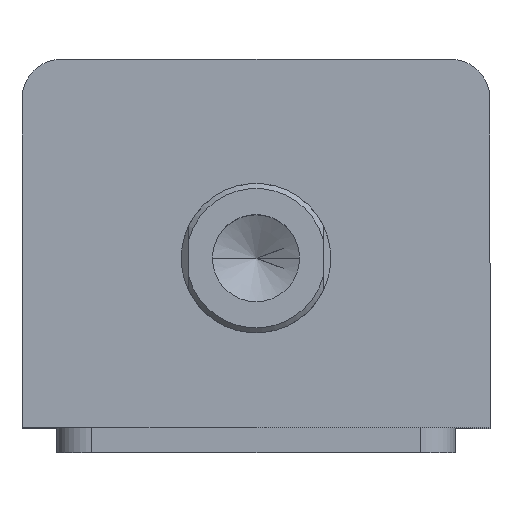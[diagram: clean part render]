
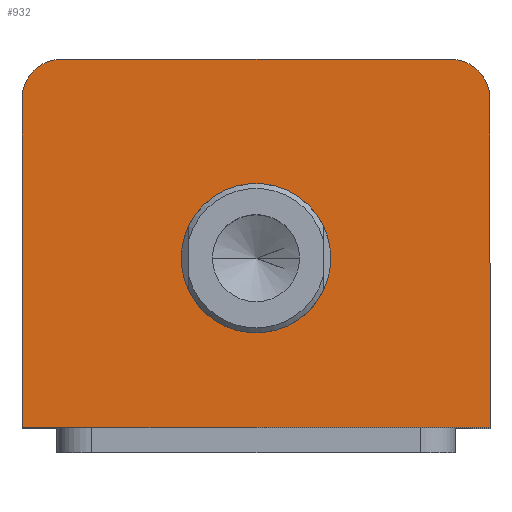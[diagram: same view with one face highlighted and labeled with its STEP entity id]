
A CAD part, top view. The second image highlights one B-rep face of the part: STEP entity #932.
In plain terms, the highlighted planar face has unit normal (0, 0, 1).
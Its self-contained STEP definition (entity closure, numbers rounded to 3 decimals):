
#15 = FACE_BOUND ( 'NONE', #2505, .T. ) ;
#18 = FACE_OUTER_BOUND ( 'NONE', #2577, .T. ) ;
#81 = CIRCLE ( 'NONE', #514, 15. ) ;
#120 = LINE ( 'NONE', #1410, #123 ) ;
#123 = VECTOR ( 'NONE', #1411, 1000. ) ;
#165 = LINE ( 'NONE', #1461, #168 ) ;
#168 = VECTOR ( 'NONE', #1462, 1000. ) ;
#181 = CIRCLE ( 'NONE', #534, 8. ) ;
#195 = CIRCLE ( 'NONE', #542, 8. ) ;
#203 = LINE ( 'NONE', #1539, #206 ) ;
#206 = VECTOR ( 'NONE', #1540, 1000. ) ;
#218 = LINE ( 'NONE', #1555, #221 ) ;
#221 = VECTOR ( 'NONE', #1556, 1000. ) ;
#235 = CIRCLE ( 'NONE', #547, 15. ) ;
#514 = AXIS2_PLACEMENT_3D ( 'NONE', #1087, #1086, #1084 ) ;
#534 = AXIS2_PLACEMENT_3D ( 'NONE', #1493, #1494, #1495 ) ;
#542 = AXIS2_PLACEMENT_3D ( 'NONE', #1521, #1522, #1523 ) ;
#547 = AXIS2_PLACEMENT_3D ( 'NONE', #1572, #1573, #1574 ) ;
#854 = AXIS2_PLACEMENT_3D ( 'NONE', #2009, #2014, #2015 ) ;
#932 = ADVANCED_FACE ( 'NONE', ( #15, #18 ), #2007, .T. ) ;
#981 = EDGE_CURVE ( 'NONE', #2445, #2140, #81, .T. ) ;
#1005 = EDGE_CURVE ( 'NONE', #2396, #2147, #120, .T. ) ;
#1029 = EDGE_CURVE ( 'NONE', #1209, #1095, #165, .T. ) ;
#1042 = EDGE_CURVE ( 'NONE', #2147, #1209, #181, .T. ) ;
#1052 = EDGE_CURVE ( 'NONE', #1095, #2464, #195, .T. ) ;
#1058 = EDGE_CURVE ( 'NONE', #2444, #2396, #203, .T. ) ;
#1066 = EDGE_CURVE ( 'NONE', #2464, #2444, #218, .T. ) ;
#1075 = EDGE_CURVE ( 'NONE', #2140, #2445, #235, .T. ) ;
#1084 = DIRECTION ( 'NONE',  ( 1., 0., 0. ) ) ;
#1086 = DIRECTION ( 'NONE',  ( 0., 0., 1. ) ) ;
#1087 = CARTESIAN_POINT ( 'NONE',  ( 0., -3., 125. ) ) ;
#1095 = VERTEX_POINT ( 'NONE', #1595 ) ;
#1209 = VERTEX_POINT ( 'NONE', #1605 ) ;
#1300 = ORIENTED_EDGE ( 'NONE', *, *, #1042, .T. ) ;
#1301 = ORIENTED_EDGE ( 'NONE', *, *, #1005, .T. ) ;
#1302 = ORIENTED_EDGE ( 'NONE', *, *, #1058, .T. ) ;
#1303 = ORIENTED_EDGE ( 'NONE', *, *, #1066, .T. ) ;
#1304 = ORIENTED_EDGE ( 'NONE', *, *, #1052, .T. ) ;
#1305 = ORIENTED_EDGE ( 'NONE', *, *, #1029, .T. ) ;
#1307 = ORIENTED_EDGE ( 'NONE', *, *, #981, .F. ) ;
#1308 = ORIENTED_EDGE ( 'NONE', *, *, #1075, .F. ) ;
#1410 = CARTESIAN_POINT ( 'NONE',  ( 47., 37., 125. ) ) ;
#1411 = DIRECTION ( 'NONE',  ( 0., 1., 0. ) ) ;
#1461 = CARTESIAN_POINT ( 'NONE',  ( -47., 37., 125. ) ) ;
#1462 = DIRECTION ( 'NONE',  ( -1., 0., 0. ) ) ;
#1493 = CARTESIAN_POINT ( 'NONE',  ( 39., 29., 125. ) ) ;
#1494 = DIRECTION ( 'NONE',  ( 0., 0., 1. ) ) ;
#1495 = DIRECTION ( 'NONE',  ( 1., 0., 0. ) ) ;
#1521 = CARTESIAN_POINT ( 'NONE',  ( -39., 29., 125. ) ) ;
#1522 = DIRECTION ( 'NONE',  ( 0., 0., 1. ) ) ;
#1523 = DIRECTION ( 'NONE',  ( 1., 0., 0. ) ) ;
#1539 = CARTESIAN_POINT ( 'NONE',  ( -47., -37., 125. ) ) ;
#1540 = DIRECTION ( 'NONE',  ( 1., 0., 0. ) ) ;
#1555 = CARTESIAN_POINT ( 'NONE',  ( -47., 37., 125. ) ) ;
#1556 = DIRECTION ( 'NONE',  ( 0., -1., 0. ) ) ;
#1572 = CARTESIAN_POINT ( 'NONE',  ( 0., -3., 125. ) ) ;
#1573 = DIRECTION ( 'NONE',  ( 0., 0., 1. ) ) ;
#1574 = DIRECTION ( 'NONE',  ( 1., 0., 0. ) ) ;
#1595 = CARTESIAN_POINT ( 'NONE',  ( -39., 37., 125. ) ) ;
#1605 = CARTESIAN_POINT ( 'NONE',  ( 39., 37., 125. ) ) ;
#1638 = CARTESIAN_POINT ( 'NONE',  ( 15., -3., 125. ) ) ;
#1645 = CARTESIAN_POINT ( 'NONE',  ( 47., 29., 125. ) ) ;
#1652 = CARTESIAN_POINT ( 'NONE',  ( 47., -37., 125. ) ) ;
#1688 = CARTESIAN_POINT ( 'NONE',  ( -47., -37., 125. ) ) ;
#1689 = CARTESIAN_POINT ( 'NONE',  ( -15., -3., 125. ) ) ;
#1707 = CARTESIAN_POINT ( 'NONE',  ( -47., 29., 125. ) ) ;
#2007 = PLANE ( 'NONE',  #854 ) ;
#2009 = CARTESIAN_POINT ( 'NONE',  ( 0., 0., 125. ) ) ;
#2014 = DIRECTION ( 'NONE',  ( 0., 0., 1. ) ) ;
#2015 = DIRECTION ( 'NONE',  ( 1., 0., 0. ) ) ;
#2140 = VERTEX_POINT ( 'NONE', #1638 ) ;
#2147 = VERTEX_POINT ( 'NONE', #1645 ) ;
#2396 = VERTEX_POINT ( 'NONE', #1652 ) ;
#2444 = VERTEX_POINT ( 'NONE', #1688 ) ;
#2445 = VERTEX_POINT ( 'NONE', #1689 ) ;
#2464 = VERTEX_POINT ( 'NONE', #1707 ) ;
#2505 = EDGE_LOOP ( 'NONE', ( #1308, #1307 ) ) ;
#2577 = EDGE_LOOP ( 'NONE', ( #1305, #1304, #1303, #1302, #1301, #1300 ) ) ;
